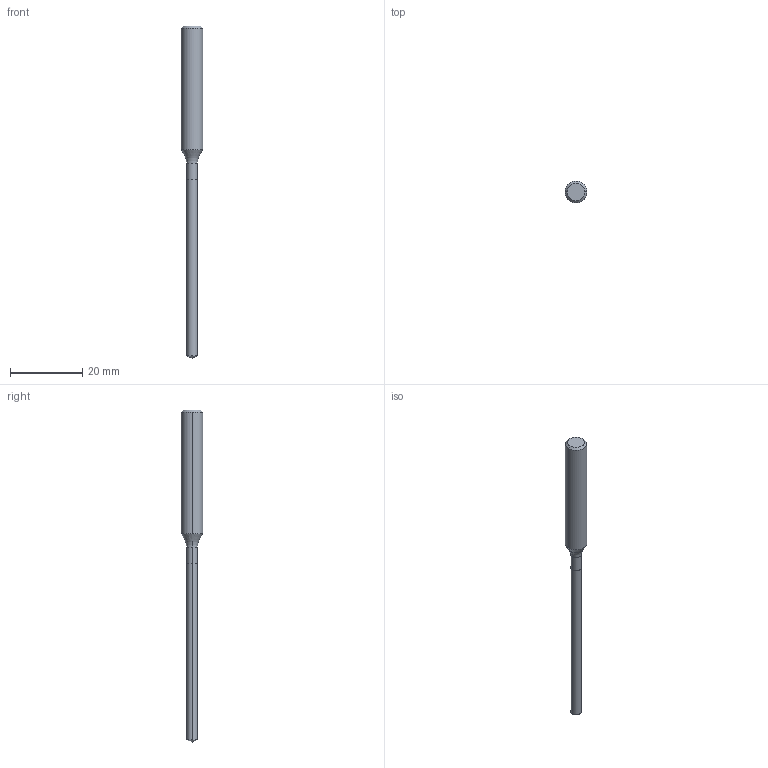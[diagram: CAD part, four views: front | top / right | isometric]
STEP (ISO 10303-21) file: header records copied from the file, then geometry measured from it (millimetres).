
FILE_DESCRIPTION (( 'STEP AP214' ), '1' );
FILE_NAME ('710.030.00_3D-model.step', '2022-02-22T04:34:12', ( '' ), ( '' ), 'SwSTEP 2.0', 'SolidWorks 2020', '' );
FILE_SCHEMA (( 'AUTOMOTIVE_DESIGN' ));
Length unit declared in the file: millimetre
Products named in the file (3): NOCUT-3D^Baugr140; CUT-3D^Baugr140; 710.030.00_3D-model
Assembly tree (2 placements, depth 2):
  710.030.00_3D-model
    CUT-3D^Baugr140
    NOCUT-3D^Baugr140
Bounding box: 6 x 6 x 92 mm (x, y, z)
Volume: 1397.7 mm3; surface area: 1245.8 mm2
Topology: 2 solids, 2 shells, 17 faces, 32 edges, 17 vertices
Faces by surface type: cone 6, cylinder 6, plane 3, torus 2
Entity records: 532 total; most frequent: DIRECTION 98, CARTESIAN_POINT 72, ORIENTED_EDGE 60, AXIS2_PLACEMENT_3D 43, EDGE_CURVE 30, CIRCLE 18, FACE_OUTER_BOUND 17, ADVANCED_FACE 17
